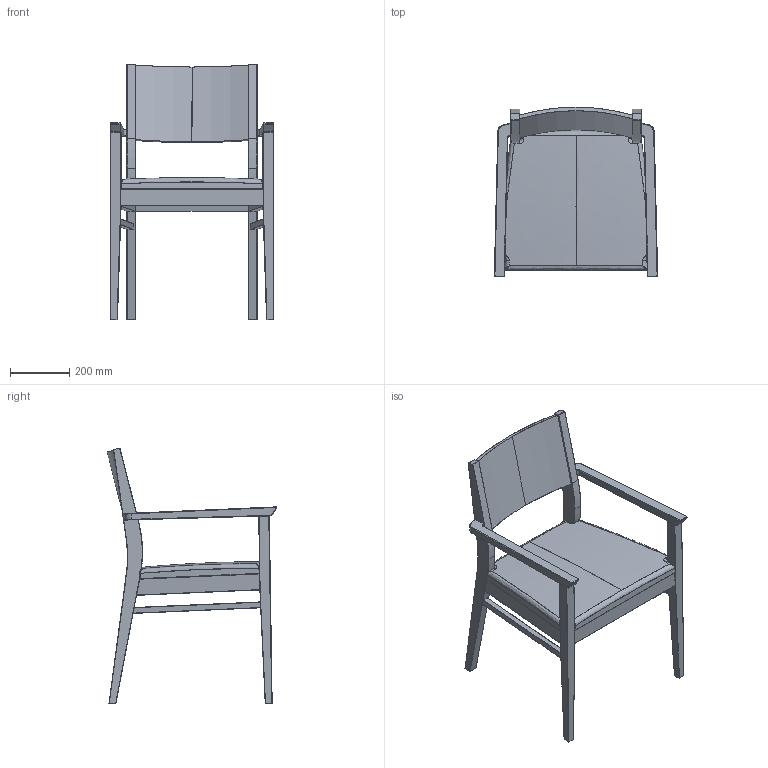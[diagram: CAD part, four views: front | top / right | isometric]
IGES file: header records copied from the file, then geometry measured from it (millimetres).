
Start section: SolidWorks IGES file using analytic representation for surfaces
Global section: file name: C:\Users\Adao\Documents\Trab Adao\Desenho técnico PRODUÇÃO\J M S\MARTY\MARTY (3D)\Cadeirão MARTY M-438 C.IGS; native system: SolidWorks 2012; preprocessor: SolidWorks 2012; author: Adao; date: 121219.155950; units: millimetre
Bounding box: 551.21 x 572.15 x 862.8 mm (x, y, z)
Surface area: 1609205.5 mm2 (no closed solid volume)
Topology: 0 solids, 0 shells, 338 faces, 2743 edges, 2707 vertices
Faces by surface type: bspline 176, revolution 162
